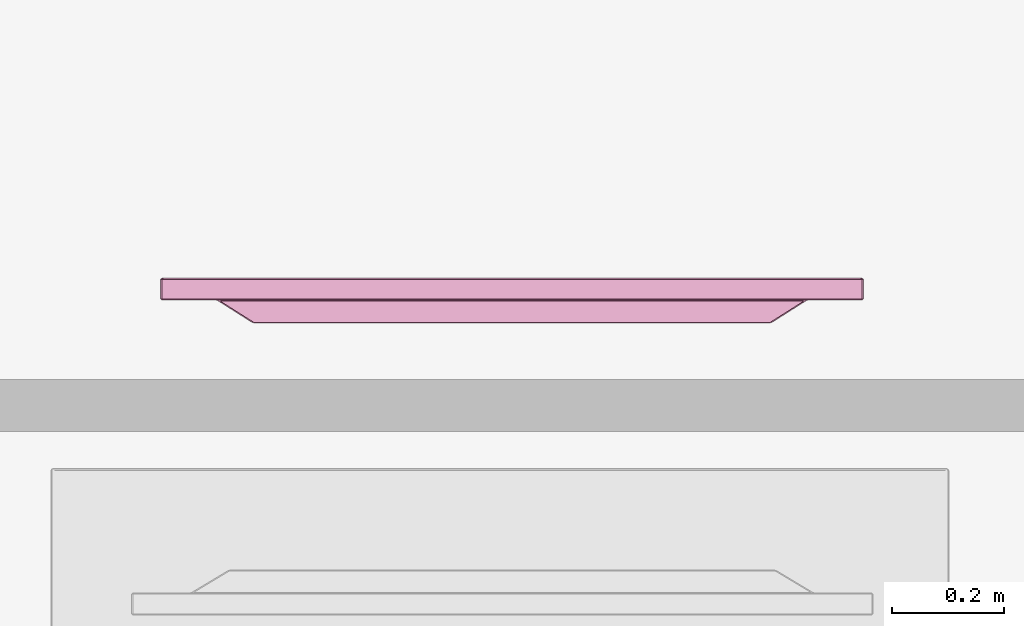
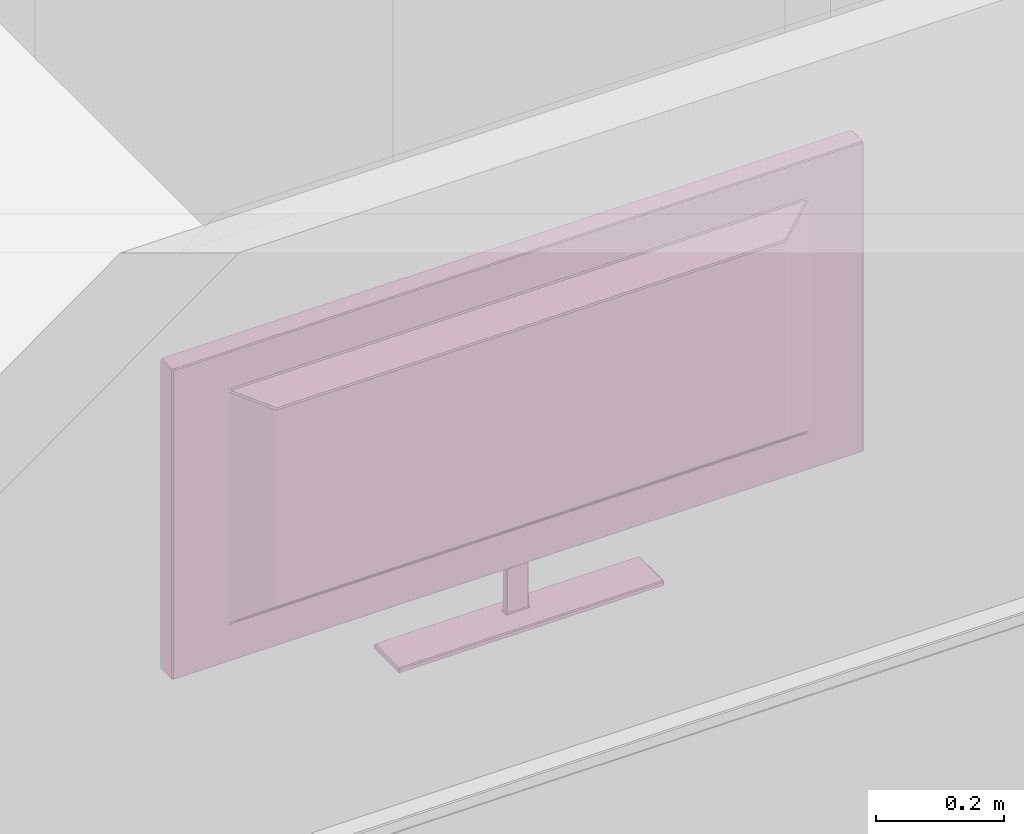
# One storey, part 11 of 26: 1 furnishing.
"""IFC2X3 building model written with IfcOpenShell, lengths in metres."""

import ifcopenshell
import ifcopenshell.guid

model = None  # the IFC model being written
_history = None  # IfcOwnerHistory: only IFC2X3 demands one
_inside = {}  # id of a spatial element -> (the spatial element, [elements in it])
_under = {}  # id of a project, library or spatial element -> (it, [spatial elements below it])
_declared = {}  # id of a project -> (the project, [libraries it declares])
_typed = {}  # id of a type object -> (the type object, [elements of that type])
_made_of = {}  # id of a material, layer set ... -> (it, [elements and type objects made of it])


def new_model(schema):
    """Start an empty IFC model of exactly this schema.

    Asked for "IFC4X3", IfcOpenShell would pick the latest addendum, in which some entities
    have other attributes; the version numbers below select the first issue.
    IFC2X3 requires an IfcOwnerHistory on every rooted entity: one is made here for all.
    """
    global model, _history
    if schema == "IFC4X3":
        model = ifcopenshell.file(schema_version=(4, 3, 0, 0))
    else:
        model = ifcopenshell.file(schema=schema)
    _inside.clear()
    _under.clear()
    _declared.clear()
    _typed.clear()
    _made_of.clear()
    _history = None
    if model.schema == "IFC2X3":
        org = make("IfcOrganization", Name="unknown")
        user = make(
            "IfcPersonAndOrganization",
            ThePerson=make("IfcPerson", FamilyName="unknown"),
            TheOrganization=org,
        )
        app = make(
            "IfcApplication",
            ApplicationDeveloper=org,
            Version="unknown",
            ApplicationFullName="unknown",
            ApplicationIdentifier="unknown",
        )
        _history = make(
            "IfcOwnerHistory",
            OwningUser=user,
            OwningApplication=app,
            ChangeAction="ADDED",
            CreationDate=0,
        )
    return model


def make(cls, **values):
    """One entity of the class cls with the attributes given. An attribute that is None is left unset."""
    return model.create_entity(
        cls, **{name: value for name, value in values.items() if value is not None}
    )


def rooted(cls, **values):
    """An entity with a GlobalId (a new one), such as an element, a storey or a relation."""
    return make(cls, GlobalId=ifcopenshell.guid.new(), OwnerHistory=_history, **values)


def si_unit(unit_type, name, prefix=None):
    """IfcSIUnit, for example si_unit("LENGTHUNIT", "METRE", prefix="MILLI")."""
    return make("IfcSIUnit", UnitType=unit_type, Prefix=prefix, Name=name)


def assignment(units):
    """IfcUnitAssignment: the units of a project."""
    return None if units is None else make("IfcUnitAssignment", Units=units)


def point(xyz):
    """IfcCartesianPoint."""
    return None if xyz is None else make("IfcCartesianPoint", Coordinates=xyz)


def direction(xyz):
    """IfcDirection."""
    return None if xyz is None else make("IfcDirection", DirectionRatios=xyz)


def frame(location, z_axis=None, x_axis=None):
    """IfcAxis2Placement3D, a coordinate frame: its origin and axes. An axis left out is left unset."""
    return make(
        "IfcAxis2Placement3D",
        Location=point(location),
        Axis=direction(z_axis),
        RefDirection=direction(x_axis),
    )


def origin_with_axes():
    """The frame at (0, 0, 0) with the z axis (0, 0, 1) and the x axis (1, 0, 0) written out."""
    return frame((0.0, 0.0, 0.0), z_axis=(0.0, 0.0, 1.0), x_axis=(1.0, 0.0, 0.0))


def place(relative_to, where):
    """IfcLocalPlacement: puts the frame where relative to a parent placement (None: the world)."""
    return make(
        "IfcLocalPlacement", PlacementRelTo=relative_to, RelativePlacement=where
    )


def context(
    kind, dimensions, precision=None, world=None, true_north=None, identifier=None
):
    """IfcGeometricRepresentationContext, for example the 3D "Model" context."""
    return make(
        "IfcGeometricRepresentationContext",
        ContextIdentifier=identifier,
        ContextType=kind,
        CoordinateSpaceDimension=dimensions,
        Precision=precision,
        WorldCoordinateSystem=world,
        TrueNorth=true_north,
    )


def project(units=None, contexts=None):
    """IfcProject with its units and contexts."""
    return rooted(
        "IfcProject",
        Name="project",
        RepresentationContexts=contexts,
        UnitsInContext=assignment(units),
    )


def spatial(cls, under=None, at=None, **own):
    """A site, building, storey or space (cls), placed at a placement, below another one or the project."""
    s = rooted(cls, ObjectPlacement=at, **own)
    if under is not None:
        _under.setdefault(under.id(), (under, []))[1].append(s)
    return s


def faces_of(points, faces, orient=None, outer=None):
    """IfcFace entities. A face is a list of loops; a loop is a list of indices into points, from 0.

    orient and outer hold one flag for each loop. By default every Orientation is true, the
    first loop of a face is its IfcFaceOuterBound and the others are IfcFaceBound.
    """
    made = []
    for i, loops in enumerate(faces):
        bounds = []
        for j, loop in enumerate(loops):
            is_outer = j == 0 if outer is None else outer[i][j]
            bounds.append(
                make(
                    "IfcFaceOuterBound" if is_outer else "IfcFaceBound",
                    Bound=make("IfcPolyLoop", Polygon=[points[k] for k in loop]),
                    Orientation=True if orient is None else orient[i][j],
                )
            )
        made.append(make("IfcFace", Bounds=bounds))
    return made


def faceted_brep(points, faces, orient=None, outer=None, voids=None):
    """IfcFacetedBrep: a solid bounded by flat faces; with voids (closed shells), ...WithVoids."""
    shared = [point(p) for p in points]
    hull = make("IfcClosedShell", CfsFaces=faces_of(shared, faces, orient, outer))
    if voids is None:
        return make("IfcFacetedBrep", Outer=hull)
    return make(
        "IfcFacetedBrepWithVoids",
        Outer=hull,
        Voids=[
            make(cls, CfsFaces=faces_of(shared, fs, o, b)) for cls, fs, o, b in voids
        ],
    )


def shape(context_of_items, identifier, shape_type, items):
    """IfcShapeRepresentation: the items that make up one representation, for example the "Body"."""
    return make(
        "IfcShapeRepresentation",
        ContextOfItems=context_of_items,
        RepresentationIdentifier=identifier,
        RepresentationType=shape_type,
        Items=items,
    )


def made_of(thing, what):
    """Note that an element or type object is made of a material, layer set ...; save() writes the relation."""
    if what is not None:
        _made_of.setdefault(what.id(), (what, []))[1].append(thing)
    return thing


def type_object(cls, material=None, **own):
    """A type object (cls), such as IfcWallType, which elements share."""
    return made_of(rooted(cls, **own), material)


def element(
    cls,
    number,
    at=None,
    inside=None,
    cuts=None,
    type_object=None,
    material=None,
    context=None,
    identifier="Body",
    shape_type=None,
    held_by="IfcProductDefinitionShape",
    body=None,
    shapes=None,
    **own,
):
    """One element of the class cls, such as IfcWall. Its Tag is "e" and its number.

    at: its placement. inside: the storey or other place that contains it. cuts: it is an
    opening in that element (IfcRelVoidsElement). A single representation is given by context,
    identifier, shape_type and body (its items); several are given by shapes. held_by: the class
    of the entity that holds the representations. save() writes the other relations.
    """
    e = rooted(cls, Tag="e%d" % number, ObjectPlacement=at, **own)
    if body is not None:
        shapes = [shape(context, identifier, shape_type, body)]
    if shapes is not None:
        e.Representation = make(held_by, Representations=shapes)
    if inside is not None:
        _inside.setdefault(inside.id(), (inside, []))[1].append(e)
    if cuts is not None:
        rooted(
            "IfcRelVoidsElement", RelatingBuildingElement=cuts, RelatedOpeningElement=e
        )
    if type_object is not None:
        _typed.setdefault(type_object.id(), (type_object, []))[1].append(e)
    return made_of(e, material)


def aggregate(whole, parts):
    """IfcRelAggregates: a whole, such as a stair, and the parts it consists of."""
    return rooted("IfcRelAggregates", RelatingObject=whole, RelatedObjects=parts)


def save(model, path):
    """Write the relations noted so far, then the file.

    IfcRelAggregates (storeys below a building ...), IfcRelContainedInSpatialStructure (elements
    in a storey), IfcRelDefinesByType, IfcRelAssociatesMaterial and IfcRelDeclares: one each for
    every whole, place, type object, material and project.
    """
    for whole, parts in _under.values():
        aggregate(whole, parts)
    for where, things in _inside.values():
        rooted(
            "IfcRelContainedInSpatialStructure",
            RelatedElements=things,
            RelatingStructure=where,
        )
    for kind, things in _typed.values():
        rooted("IfcRelDefinesByType", RelatedObjects=things, RelatingType=kind)
    for what, things in _made_of.values():
        rooted("IfcRelAssociatesMaterial", RelatedObjects=things, RelatingMaterial=what)
    for by, libraries in _declared.values():
        rooted("IfcRelDeclares", RelatingContext=by, RelatedDefinitions=libraries)
    model.write(path)


model = new_model("IFC2X3")

# Units and contexts
model_context = context("Model", 3, precision=1e-05, world=origin_with_axes(), true_north=direction((0.996, -0.093, 0.0)))
ifc_project = project(units=[si_unit("AREAUNIT", "SQUARE_METRE"), si_unit("LENGTHUNIT", "METRE")], contexts=[model_context])

# Site, building, storey, space
site_placement = place(None, origin_with_axes())
site = spatial("IfcSite", under=ifc_project, at=site_placement, Name="Site", CompositionType="ELEMENT")
building_placement = place(site_placement, origin_with_axes())
building = spatial("IfcBuilding", under=site, at=building_placement, Name="Building", CompositionType="ELEMENT")
storey_placement = place(building_placement, frame((0.0, 0.0, 0.0500001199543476), z_axis=(0.0, 0.0, 1.0), x_axis=(1.0, 0.0, 0.0)))
storey = spatial("IfcBuildingStorey", under=building, at=storey_placement, Name="Story 0", CompositionType="ELEMENT", Elevation=0.0500000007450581)
space_placement = place(storey_placement, frame((9.93548383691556, 0.861985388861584, 0.0), z_axis=(0.0, 0.0, 1.0), x_axis=(1.0, 0.0, 0.0)))
space = spatial("IfcSpace", under=storey, at=space_placement, Name="004", CompositionType="ELEMENT", InteriorOrExteriorSpace="INTERNAL")

# Furnishing
furniture_type = type_object("IfcFurnitureType", Name="e34bf913-bba4-465f-8bc2-ae57b32af9ed")
furnishing_placement = place(space_placement, frame((-1.18565740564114, 0.140154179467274, 1.85515792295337), z_axis=(0.0, 0.0, 0.999999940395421), x_axis=(0.0, 0.999999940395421, 0.0)))
element("IfcFurnishingElement", 1, at=furnishing_placement, inside=space, type_object=furniture_type, Name="Television", ObjectType="Television", context=model_context, shape_type="Brep", body=[
    faceted_brep([(0.0288, -0.5938, -0.2046), (0.0288, 0.5938, -0.2046), (0.0288, -0.5962, -0.2027), (0.0288, -0.5962, 0.3207), (0.0288, -0.5962, -0.2027), (0.0288, -0.5938, 0.3226), (0.0288, 0.5938, 0.3226), (0.0288, -0.5938, 0.3226), (0.0288, 0.5962, 0.3207), (0.0288, -0.5938, 0.3226), (0.0288, -0.5962, -0.2027), (0.0288, 0.5962, 0.3207), (0.0288, -0.5962, -0.2027), (0.0288, 0.5938, -0.2046), (0.0288, 0.5962, 0.3207), (0.0288, 0.5938, -0.2046), (0.0288, 0.5962, -0.2027), (0.0288, 0.5962, 0.3207), (0.003, -0.6262, 0.3441), (0.003, -0.6262, -0.2467), (0.038, -0.6262, 0.3441), (0.038, -0.6262, -0.2467), (0.038, -0.6262, 0.3441), (0.003, -0.6262, -0.2467), (0.003, 0.6262, -0.2467), (0.003, 0.6262, 0.3441), (0.038, 0.6262, -0.2467), (0.038, 0.6262, 0.3441), (0.038, 0.6262, -0.2467), (0.003, 0.6262, 0.3441), (0.003, 0.6239, 0.3459), (0.003, -0.6239, 0.3459), (0.038, 0.6239, 0.3459), (0.038, -0.6239, 0.3459), (0.038, 0.6239, 0.3459), (0.003, -0.6239, 0.3459), (0.0143, -0.0216, -0.2272), (0.0062, -0.0216, -0.2272), (0.0143, -0.0216, -0.3341), (0.0062, -0.0216, -0.3341), (0.0143, -0.0216, -0.3341), (0.0062, -0.0216, -0.2272), (0.0162, 0.0171, -0.2272), (0.0162, -0.0193, -0.2272), (0.0162, 0.0171, -0.3341), (0.0162, -0.0193, -0.3341), (0.0162, 0.0171, -0.3341), (0.0162, -0.0193, -0.2272), (0.0062, 0.0195, -0.2272), (0.0143, 0.0195, -0.2272), (0.0062, 0.0195, -0.3341), (0.0143, 0.0195, -0.3341), (0.0062, 0.0195, -0.3341), (0.0143, 0.0195, -0.2272), (-0.04, 0.459, -0.1392), (-0.04, -0.459, -0.1392), (-0.04, 0.459, 0.2367), (-0.04, -0.459, 0.2367), (-0.04, 0.459, 0.2367), (-0.04, -0.459, -0.1392), (0.0043, 0.0171, -0.3341), (0.0043, -0.0193, -0.3341), (0.0043, 0.0171, -0.2272), (0.0043, -0.0193, -0.2272), (0.0043, 0.0171, -0.2272), (0.0043, -0.0193, -0.3341), (0.038, -0.6239, -0.2485), (0.003, -0.6239, -0.2485), (0.038, 0.6239, -0.2485), (0.003, 0.6239, -0.2485), (0.038, 0.6239, -0.2485), (0.003, -0.6239, -0.2485), (-0.0379, -0.2395, -0.3459), (-0.0379, 0.2374, -0.3459), (0.0382, -0.2395, -0.3459), (0.0382, 0.2374, -0.3459), (0.0382, -0.2395, -0.3459), (-0.0379, 0.2374, -0.3459), (0.0399, -0.5994, -0.21), (0.0399, -0.6225, -0.2467), (0.0399, 0.5994, -0.21), (0.0399, 0.6225, -0.2467), (0.0399, 0.5994, -0.21), (0.0399, -0.6225, -0.2467), (0.0399, -0.6032, 0.3255), (0.0399, -0.6239, 0.3416), (0.0399, -0.6032, -0.2078), (0.0399, -0.6239, -0.2407), (0.0399, -0.6032, -0.2078), (0.0399, -0.6239, 0.3416), (0.0399, 0.5999, 0.328), (0.0399, 0.6206, 0.3441), (0.0399, -0.5999, 0.328), (0.0399, -0.6206, 0.3441), (0.0399, -0.5999, 0.328), (0.0399, 0.6206, 0.3441), (0.0399, 0.6239, -0.2407), (0.0399, 0.6239, 0.3416), (0.0399, 0.6032, -0.2078), (0.0399, 0.6032, 0.3255), (0.0399, 0.6032, -0.2078), (0.0399, 0.6239, 0.3416), (0.0288, -0.5938, -0.2046), (0.0381, -0.5977, -0.2076), (0.0288, 0.5938, -0.2046), (0.0381, 0.5977, -0.2076), (0.0288, 0.5938, -0.2046), (0.0381, -0.5977, -0.2076), (0.0288, -0.5962, 0.3207), (0.0381, -0.6001, 0.3238), (0.0288, -0.5962, -0.2027), (0.0381, -0.6001, -0.2057), (0.0288, -0.5962, -0.2027), (0.0381, -0.6001, 0.3238), (0.0288, 0.5938, 0.3226), (0.0381, 0.5977, 0.3256), (0.0288, -0.5938, 0.3226), (0.0381, -0.5977, 0.3256), (0.0288, -0.5938, 0.3226), (0.0381, 0.5977, 0.3256), (0.0288, 0.5962, -0.2027), (0.0381, 0.6001, -0.2057), (0.0288, 0.5962, 0.3207), (0.0381, 0.6001, 0.3238), (0.0288, 0.5962, 0.3207), (0.0381, 0.6001, -0.2057), (0.0011, -0.5286, -0.1742), (0.0011, -0.6239, -0.2443), (0.0011, -0.5286, 0.2717), (0.0011, -0.6239, 0.3418), (0.0011, -0.5286, 0.2717), (0.0011, -0.6239, -0.2443), (0.0011, 0.5254, -0.1768), (0.0011, 0.6204, -0.2467), (0.0011, -0.5254, -0.1768), (0.0011, -0.6204, -0.2467), (0.0011, -0.5254, -0.1768), (0.0011, 0.6204, -0.2467), (0.0011, 0.5286, 0.2717), (0.0011, 0.6239, 0.3418), (0.0011, 0.5286, -0.1742), (0.0011, 0.6239, -0.2443), (0.0011, 0.5286, -0.1742), (0.0011, 0.6239, 0.3418), (0.0011, -0.5254, 0.2743), (0.0011, -0.6204, 0.3441), (0.0011, 0.5254, 0.2743), (0.0011, 0.6204, 0.3441), (0.0011, 0.5254, 0.2743), (0.0011, -0.6204, 0.3441), (-0.0389, -0.4632, 0.2374), (-0.0389, -0.4632, -0.14), (0.0, -0.5245, 0.2695), (0.0, -0.5245, -0.172), (0.0, -0.5245, 0.2695), (-0.0389, -0.4632, -0.14), (-0.0386, -0.4603, -0.1422), (-0.0386, 0.4603, -0.1422), (-0.0003, -0.5209, -0.1738), (-0.0003, 0.5209, -0.1738), (-0.0003, -0.5209, -0.1738), (-0.0386, 0.4603, -0.1422), (-0.0389, 0.4632, -0.14), (-0.0389, 0.4632, 0.2374), (0.0, 0.5245, -0.172), (0.0, 0.5245, 0.2695), (0.0, 0.5245, -0.172), (-0.0389, 0.4632, 0.2374), (-0.0386, 0.4603, 0.2397), (-0.0386, -0.4603, 0.2397), (-0.0003, 0.5209, 0.2713), (-0.0003, -0.5209, 0.2713), (-0.0003, 0.5209, 0.2713), (-0.0386, -0.4603, 0.2397), (0.04, 0.2374, -0.3441), (0.04, 0.2374, -0.3378), (0.04, -0.2395, -0.3441), (0.04, -0.2395, -0.3378), (0.04, -0.2395, -0.3441), (0.04, 0.2374, -0.3378), (-0.0379, 0.2397, -0.3441), (-0.0379, 0.2397, -0.3378), (0.0382, 0.2397, -0.3441), (0.0382, 0.2397, -0.3378), (0.0382, 0.2397, -0.3441), (-0.0379, 0.2397, -0.3378), (-0.0397, -0.2395, -0.3441), (-0.0397, -0.2395, -0.3378), (-0.0397, 0.2374, -0.3441), (-0.0397, 0.2374, -0.3378), (-0.0397, 0.2374, -0.3441), (-0.0397, -0.2395, -0.3378), (0.0382, -0.2418, -0.3441), (0.0382, -0.2418, -0.3378), (-0.0379, -0.2418, -0.3441), (-0.0379, -0.2418, -0.3378), (-0.0379, -0.2418, -0.3441), (0.0382, -0.2418, -0.3378), (-0.0374, -0.2395, -0.336), (0.0379, -0.2395, -0.336), (0.0058, -0.0239, -0.336), (0.0146, -0.0239, -0.336), (0.0058, -0.0239, -0.336), (0.0379, -0.2395, -0.336), (0.0025, 0.0192, -0.336), (-0.0379, 0.221, -0.336), (0.0025, -0.0213, -0.336), (-0.0379, -0.2231, -0.336), (0.0025, -0.0213, -0.336), (-0.0379, 0.221, -0.336), (0.0146, 0.0218, -0.336), (0.0379, 0.2374, -0.336), (0.0058, 0.0218, -0.336), (-0.0374, 0.2374, -0.336), (0.0058, 0.0218, -0.336), (0.0379, 0.2374, -0.336), (0.018, -0.0214, -0.336), (0.0382, -0.2076, -0.336), (0.018, 0.0193, -0.336), (0.0382, 0.2055, -0.336), (0.018, 0.0193, -0.336), (0.0382, -0.2076, -0.336), (0.0346, -0.6125, -0.2149), (0.0346, 0.6125, -0.2149), (0.0346, -0.6125, 0.333), (0.0346, 0.6125, 0.333), (0.0346, -0.6125, 0.333), (0.0346, 0.6125, -0.2149), (0.0399, -0.6206, 0.3441), (0.038, -0.6239, 0.3459), (0.0399, -0.6239, 0.3416), (0.038, -0.6262, 0.3441), (0.0399, -0.6239, 0.3416), (0.038, -0.6239, 0.3459), (0.0011, 0.6204, 0.3441), (0.003, 0.6239, 0.3459), (0.0011, 0.6239, 0.3418), (0.003, 0.6262, 0.3441), (0.0011, 0.6239, 0.3418), (0.003, 0.6239, 0.3459), (0.0399, 0.6239, 0.3416), (0.038, 0.6262, 0.3441), (0.0399, 0.6206, 0.3441), (0.038, 0.6239, 0.3459), (0.0399, 0.6206, 0.3441), (0.038, 0.6262, 0.3441), (0.0058, -0.0239, -0.336), (0.0062, -0.0216, -0.3341), (0.0025, -0.0213, -0.336), (0.0043, -0.0193, -0.3341), (0.0025, -0.0213, -0.336), (0.0062, -0.0216, -0.3341), (0.0146, -0.0239, -0.336), (0.018, -0.0214, -0.336), (0.0143, -0.0216, -0.3341), (0.0162, -0.0193, -0.3341), (0.0143, -0.0216, -0.3341), (0.018, -0.0214, -0.336), (0.0146, 0.0218, -0.336), (0.0143, 0.0195, -0.3341), (0.018, 0.0193, -0.336), (0.0162, 0.0171, -0.3341), (0.018, 0.0193, -0.336), (0.0143, 0.0195, -0.3341), (-0.0386, -0.4603, 0.2397), (-0.04, -0.459, 0.2367), (-0.0389, -0.4632, 0.2374), (0.0058, 0.0218, -0.336), (0.0025, 0.0192, -0.336), (0.0062, 0.0195, -0.3341), (0.0043, 0.0171, -0.3341), (0.0062, 0.0195, -0.3341), (0.0025, 0.0192, -0.336), (0.0011, -0.6204, -0.2467), (0.003, -0.6239, -0.2485), (0.0011, -0.6239, -0.2443), (0.003, -0.6262, -0.2467), (0.0011, -0.6239, -0.2443), (0.003, -0.6239, -0.2485), (0.0399, -0.6239, -0.2407), (0.038, -0.6262, -0.2467), (0.0399, -0.6225, -0.2467), (0.038, -0.6239, -0.2485), (0.0399, -0.6225, -0.2467), (0.038, -0.6262, -0.2467), (0.0382, -0.2418, -0.3441), (0.0382, -0.2395, -0.3459), (0.04, -0.2395, -0.3441), (0.0399, 0.6239, -0.2407), (0.0399, 0.6225, -0.2467), (0.038, 0.6262, -0.2467), (0.038, 0.6239, -0.2485), (0.038, 0.6262, -0.2467), (0.0399, 0.6225, -0.2467), (0.0381, -0.6001, -0.2057), (0.0399, -0.6032, -0.2078), (0.0381, -0.5977, -0.2076), (0.0399, -0.5994, -0.21), (0.0381, -0.5977, -0.2076), (0.0399, -0.6032, -0.2078), (0.0381, -0.5977, 0.3256), (0.0399, -0.5999, 0.328), (0.0381, -0.6001, 0.3238), (0.0399, -0.6032, 0.3255), (0.0381, -0.6001, 0.3238), (0.0399, -0.5999, 0.328), (0.0381, 0.6001, 0.3238), (0.0399, 0.6032, 0.3255), (0.0381, 0.5977, 0.3256), (0.0399, 0.5999, 0.328), (0.0381, 0.5977, 0.3256), (0.0399, 0.6032, 0.3255), (0.0381, 0.6001, -0.2057), (0.0381, 0.5977, -0.2076), (0.0399, 0.6032, -0.2078), (0.0399, 0.5994, -0.21), (0.0399, 0.6032, -0.2078), (0.0381, 0.5977, -0.2076), (0.0011, -0.6204, 0.3441), (0.0011, -0.6239, 0.3418), (0.003, -0.6239, 0.3459), (0.003, -0.6262, 0.3441), (0.003, -0.6239, 0.3459), (0.0011, -0.6239, 0.3418), (-0.0003, -0.5209, 0.2713), (0.0, -0.5245, 0.2695), (0.0011, -0.5254, 0.2743), (0.0011, -0.5286, 0.2717), (0.0011, -0.5254, 0.2743), (0.0, -0.5245, 0.2695), (-0.0003, -0.5209, -0.1738), (0.0011, -0.5254, -0.1768), (0.0, -0.5245, -0.172), (0.0011, -0.5286, -0.1742), (0.0, -0.5245, -0.172), (0.0011, -0.5254, -0.1768), (0.0011, 0.6204, -0.2467), (0.0011, 0.6239, -0.2443), (0.003, 0.6239, -0.2485), (0.003, 0.6262, -0.2467), (0.003, 0.6239, -0.2485), (0.0011, 0.6239, -0.2443), (-0.0003, 0.5209, -0.1738), (0.0, 0.5245, -0.172), (0.0011, 0.5254, -0.1768), (0.0011, 0.5286, -0.1742), (0.0011, 0.5254, -0.1768), (0.0, 0.5245, -0.172), (-0.0003, 0.5209, 0.2713), (0.0011, 0.5254, 0.2743), (0.0, 0.5245, 0.2695), (0.0011, 0.5286, 0.2717), (0.0, 0.5245, 0.2695), (0.0011, 0.5254, 0.2743), (-0.0386, -0.4603, -0.1422), (-0.0389, -0.4632, -0.14), (-0.04, -0.459, -0.1392), (-0.0389, 0.4632, -0.14), (-0.0386, 0.4603, -0.1422), (-0.04, 0.459, -0.1392), (-0.0386, 0.4603, 0.2397), (-0.0389, 0.4632, 0.2374), (-0.04, 0.459, 0.2367), (0.0382, 0.2397, -0.3441), (0.04, 0.2374, -0.3441), (0.0382, 0.2374, -0.3459), (-0.0397, 0.2374, -0.3441), (-0.0379, 0.2397, -0.3441), (-0.0379, 0.2374, -0.3459), (-0.0379, -0.2418, -0.3441), (-0.0397, -0.2395, -0.3441), (-0.0379, -0.2395, -0.3459), (-0.0379, -0.2231, -0.336), (-0.0397, -0.2395, -0.3378), (-0.0374, -0.2395, -0.336), (-0.0379, -0.2418, -0.3378), (-0.0374, -0.2395, -0.336), (-0.0397, -0.2395, -0.3378), (0.0382, -0.2076, -0.336), (0.0379, -0.2395, -0.336), (0.04, -0.2395, -0.3378), (0.0382, -0.2418, -0.3378), (0.04, -0.2395, -0.3378), (0.0379, -0.2395, -0.336), (-0.0379, 0.221, -0.336), (-0.0374, 0.2374, -0.336), (-0.0397, 0.2374, -0.3378), (-0.0379, 0.2397, -0.3378), (-0.0397, 0.2374, -0.3378), (-0.0374, 0.2374, -0.336), (0.0382, 0.2397, -0.3378), (0.0379, 0.2374, -0.336), (0.04, 0.2374, -0.3378), (0.0382, 0.2055, -0.336), (0.04, 0.2374, -0.3378), (0.0379, 0.2374, -0.336), (0.038, -0.6262, -0.2467), (0.003, -0.6262, -0.2467), (0.038, -0.6239, -0.2485), (0.003, -0.6239, -0.2485), (0.038, -0.6239, -0.2485), (0.003, -0.6262, -0.2467), (0.003, -0.6262, 0.3441), (0.038, -0.6262, 0.3441), (0.003, -0.6239, 0.3459), (0.038, -0.6239, 0.3459), (0.003, -0.6239, 0.3459), (0.038, -0.6262, 0.3441), (0.038, 0.6262, 0.3441), (0.003, 0.6262, 0.3441), (0.038, 0.6239, 0.3459), (0.003, 0.6239, 0.3459), (0.038, 0.6239, 0.3459), (0.003, 0.6262, 0.3441), (0.003, 0.6262, -0.2467), (0.038, 0.6262, -0.2467), (0.003, 0.6239, -0.2485), (0.038, 0.6239, -0.2485), (0.003, 0.6239, -0.2485), (0.038, 0.6262, -0.2467), (0.0062, -0.0216, -0.3341), (0.0062, -0.0216, -0.2272), (0.0043, -0.0193, -0.3341), (0.0043, -0.0193, -0.2272), (0.0043, -0.0193, -0.3341), (0.0062, -0.0216, -0.2272), (0.0143, -0.0216, -0.2272), (0.0143, -0.0216, -0.3341), (0.0162, -0.0193, -0.2272), (0.0162, -0.0193, -0.3341), (0.0162, -0.0193, -0.2272), (0.0143, -0.0216, -0.3341), (0.0162, 0.0171, -0.2272), (0.0162, 0.0171, -0.3341), (0.0143, 0.0195, -0.2272), (0.0143, 0.0195, -0.3341), (0.0143, 0.0195, -0.2272), (0.0162, 0.0171, -0.3341), (0.0062, 0.0195, -0.2272), (0.0062, 0.0195, -0.3341), (0.0043, 0.0171, -0.2272), (0.0043, 0.0171, -0.3341), (0.0043, 0.0171, -0.2272), (0.0062, 0.0195, -0.3341), (-0.04, -0.459, 0.2367), (-0.04, -0.459, -0.1392), (-0.0389, -0.4632, 0.2374), (-0.0389, -0.4632, -0.14), (-0.0389, -0.4632, 0.2374), (-0.04, -0.459, -0.1392), (-0.04, -0.459, -0.1392), (-0.04, 0.459, -0.1392), (-0.0386, -0.4603, -0.1422), (-0.0386, 0.4603, -0.1422), (-0.0386, -0.4603, -0.1422), (-0.04, 0.459, -0.1392), (-0.04, 0.459, -0.1392), (-0.04, 0.459, 0.2367), (-0.0389, 0.4632, -0.14), (-0.0389, 0.4632, 0.2374), (-0.0389, 0.4632, -0.14), (-0.04, 0.459, 0.2367), (-0.04, 0.459, 0.2367), (-0.04, -0.459, 0.2367), (-0.0386, 0.4603, 0.2397), (-0.0386, -0.4603, 0.2397), (-0.0386, 0.4603, 0.2397), (-0.04, -0.459, 0.2367), (0.0382, 0.2374, -0.3459), (-0.0379, 0.2374, -0.3459), (0.0382, 0.2397, -0.3441), (-0.0379, 0.2397, -0.3441), (0.0382, 0.2397, -0.3441), (-0.0379, 0.2374, -0.3459), (-0.0379, 0.2374, -0.3459), (-0.0379, -0.2395, -0.3459), (-0.0397, 0.2374, -0.3441), (-0.0397, -0.2395, -0.3441), (-0.0397, 0.2374, -0.3441), (-0.0379, -0.2395, -0.3459), (-0.0379, -0.2395, -0.3459), (0.0382, -0.2395, -0.3459), (-0.0379, -0.2418, -0.3441), (0.0382, -0.2418, -0.3441), (-0.0379, -0.2418, -0.3441), (0.0382, -0.2395, -0.3459), (0.0382, -0.2395, -0.3459), (0.0382, 0.2374, -0.3459), (0.04, -0.2395, -0.3441), (0.04, 0.2374, -0.3441), (0.04, -0.2395, -0.3441), (0.0382, 0.2374, -0.3459), (0.0399, 0.6225, -0.2467), (0.0399, -0.6225, -0.2467), (0.038, 0.6239, -0.2485), (0.038, -0.6239, -0.2485), (0.038, 0.6239, -0.2485), (0.0399, -0.6225, -0.2467), (0.0399, -0.6225, -0.2467), (0.0399, -0.5994, -0.21), (0.0399, -0.6239, -0.2407), (0.0399, -0.6032, -0.2078), (0.0399, -0.6239, -0.2407), (0.0399, -0.5994, -0.21), (0.0399, -0.6239, -0.2407), (0.0399, -0.6239, 0.3416), (0.038, -0.6262, -0.2467), (0.038, -0.6262, 0.3441), (0.038, -0.6262, -0.2467), (0.0399, -0.6239, 0.3416), (0.0399, -0.6239, 0.3416), (0.0399, -0.6032, 0.3255), (0.0399, -0.6206, 0.3441), (0.0399, -0.5999, 0.328), (0.0399, -0.6206, 0.3441), (0.0399, -0.6032, 0.3255), (0.0399, -0.6206, 0.3441), (0.0399, 0.6206, 0.3441), (0.038, -0.6239, 0.3459), (0.038, 0.6239, 0.3459), (0.038, -0.6239, 0.3459), (0.0399, 0.6206, 0.3441), (0.0399, 0.6206, 0.3441), (0.0399, 0.5999, 0.328), (0.0399, 0.6239, 0.3416), (0.0399, 0.6032, 0.3255), (0.0399, 0.6239, 0.3416), (0.0399, 0.5999, 0.328), (0.0399, 0.6239, 0.3416), (0.0399, 0.6239, -0.2407), (0.038, 0.6262, 0.3441), (0.038, 0.6262, -0.2467), (0.038, 0.6262, 0.3441), (0.0399, 0.6239, -0.2407), (0.0399, 0.6239, -0.2407), (0.0399, 0.6032, -0.2078), (0.0399, 0.6225, -0.2467), (0.0399, 0.5994, -0.21), (0.0399, 0.6225, -0.2467), (0.0399, 0.6032, -0.2078), (0.0381, 0.5977, -0.2076), (0.0381, -0.5977, -0.2076), (0.0399, 0.5994, -0.21), (0.0399, -0.5994, -0.21), (0.0399, 0.5994, -0.21), (0.0381, -0.5977, -0.2076), (0.0381, -0.5977, -0.2076), (0.0288, -0.5938, -0.2046), (0.0381, -0.6001, -0.2057), (0.0288, -0.5962, -0.2027), (0.0381, -0.6001, -0.2057), (0.0288, -0.5938, -0.2046), (0.0381, -0.6001, -0.2057), (0.0381, -0.6001, 0.3238), (0.0399, -0.6032, -0.2078), (0.0399, -0.6032, 0.3255), (0.0399, -0.6032, -0.2078), (0.0381, -0.6001, 0.3238), (0.0381, -0.6001, 0.3238), (0.0288, -0.5962, 0.3207), (0.0381, -0.5977, 0.3256), (0.0288, -0.5938, 0.3226), (0.0381, -0.5977, 0.3256), (0.0288, -0.5962, 0.3207), (0.0381, -0.5977, 0.3256), (0.0381, 0.5977, 0.3256), (0.0399, -0.5999, 0.328), (0.0399, 0.5999, 0.328), (0.0399, -0.5999, 0.328), (0.0381, 0.5977, 0.3256), (0.0381, 0.5977, 0.3256), (0.0288, 0.5938, 0.3226), (0.0381, 0.6001, 0.3238), (0.0288, 0.5962, 0.3207), (0.0381, 0.6001, 0.3238), (0.0288, 0.5938, 0.3226), (0.0381, 0.6001, 0.3238), (0.0381, 0.6001, -0.2057), (0.0399, 0.6032, 0.3255), (0.0399, 0.6032, -0.2078), (0.0399, 0.6032, 0.3255), (0.0381, 0.6001, -0.2057), (0.0381, 0.6001, -0.2057), (0.0288, 0.5962, -0.2027), (0.0381, 0.5977, -0.2076), (0.0288, 0.5938, -0.2046), (0.0381, 0.5977, -0.2076), (0.0288, 0.5962, -0.2027), (0.0011, -0.6239, 0.3418), (0.0011, -0.6239, -0.2443), (0.003, -0.6262, 0.3441), (0.003, -0.6262, -0.2467), (0.003, -0.6262, 0.3441), (0.0011, -0.6239, -0.2443), (0.0011, -0.6239, -0.2443), (0.0011, -0.5286, -0.1742), (0.0011, -0.6204, -0.2467), (0.0011, -0.5254, -0.1768), (0.0011, -0.6204, -0.2467), (0.0011, -0.5286, -0.1742), (0.0011, -0.5286, -0.1742), (0.0011, -0.5286, 0.2717), (0.0, -0.5245, -0.172), (0.0, -0.5245, 0.2695), (0.0, -0.5245, -0.172), (0.0011, -0.5286, 0.2717), (0.0011, -0.6204, -0.2467), (0.0011, 0.6204, -0.2467), (0.003, -0.6239, -0.2485), (0.003, 0.6239, -0.2485), (0.003, -0.6239, -0.2485), (0.0011, 0.6204, -0.2467), (0.0011, 0.6204, -0.2467), (0.0011, 0.5254, -0.1768), (0.0011, 0.6239, -0.2443), (0.0011, 0.5286, -0.1742), (0.0011, 0.6239, -0.2443), (0.0011, 0.5254, -0.1768), (0.0011, 0.5254, -0.1768), (0.0011, -0.5254, -0.1768), (-0.0003, 0.5209, -0.1738), (-0.0003, -0.5209, -0.1738), (-0.0003, 0.5209, -0.1738), (0.0011, -0.5254, -0.1768), (0.0011, 0.6239, -0.2443), (0.0011, 0.6239, 0.3418), (0.003, 0.6262, -0.2467), (0.003, 0.6262, 0.3441), (0.003, 0.6262, -0.2467), (0.0011, 0.6239, 0.3418), (0.0011, 0.6239, 0.3418), (0.0011, 0.5286, 0.2717), (0.0011, 0.6204, 0.3441), (0.0011, 0.5254, 0.2743), (0.0011, 0.6204, 0.3441), (0.0011, 0.5286, 0.2717), (0.0011, 0.5286, 0.2717), (0.0011, 0.5286, -0.1742), (0.0, 0.5245, 0.2695), (0.0, 0.5245, -0.172), (0.0, 0.5245, 0.2695), (0.0011, 0.5286, -0.1742), (0.0011, 0.6204, 0.3441), (0.0011, -0.6204, 0.3441), (0.003, 0.6239, 0.3459), (0.003, -0.6239, 0.3459), (0.003, 0.6239, 0.3459), (0.0011, -0.6204, 0.3441), (0.0011, -0.6204, 0.3441), (0.0011, -0.5254, 0.2743), (0.0011, -0.6239, 0.3418), (0.0011, -0.5286, 0.2717), (0.0011, -0.6239, 0.3418), (0.0011, -0.5254, 0.2743), (0.0011, -0.5254, 0.2743), (0.0011, 0.5254, 0.2743), (-0.0003, -0.5209, 0.2713), (-0.0003, 0.5209, 0.2713), (-0.0003, -0.5209, 0.2713), (0.0011, 0.5254, 0.2743), (0.0, -0.5245, -0.172), (-0.0389, -0.4632, -0.14), (-0.0003, -0.5209, -0.1738), (-0.0386, -0.4603, -0.1422), (-0.0003, -0.5209, -0.1738), (-0.0389, -0.4632, -0.14), (-0.0003, 0.5209, -0.1738), (-0.0386, 0.4603, -0.1422), (0.0, 0.5245, -0.172), (-0.0389, 0.4632, -0.14), (0.0, 0.5245, -0.172), (-0.0386, 0.4603, -0.1422), (0.0, 0.5245, 0.2695), (-0.0389, 0.4632, 0.2374), (-0.0003, 0.5209, 0.2713), (-0.0386, 0.4603, 0.2397), (-0.0003, 0.5209, 0.2713), (-0.0389, 0.4632, 0.2374), (-0.0003, -0.5209, 0.2713), (-0.0386, -0.4603, 0.2397), (0.0, -0.5245, 0.2695), (-0.0389, -0.4632, 0.2374), (0.0, -0.5245, 0.2695), (-0.0386, -0.4603, 0.2397), (0.04, 0.2374, -0.3378), (0.04, 0.2374, -0.3441), (0.0382, 0.2397, -0.3378), (0.0382, 0.2397, -0.3441), (0.0382, 0.2397, -0.3378), (0.04, 0.2374, -0.3441), (-0.0379, 0.2397, -0.3378), (-0.0379, 0.2397, -0.3441), (-0.0397, 0.2374, -0.3378), (-0.0397, 0.2374, -0.3441), (-0.0397, 0.2374, -0.3378), (-0.0379, 0.2397, -0.3441), (-0.0397, -0.2395, -0.3378), (-0.0397, -0.2395, -0.3441), (-0.0379, -0.2418, -0.3378), (-0.0379, -0.2418, -0.3441), (-0.0379, -0.2418, -0.3378), (-0.0397, -0.2395, -0.3441), (0.0382, -0.2418, -0.3378), (0.0382, -0.2418, -0.3441), (0.04, -0.2395, -0.3378), (0.04, -0.2395, -0.3441), (0.04, -0.2395, -0.3378), (0.0382, -0.2418, -0.3441), (0.0379, -0.2395, -0.336), (-0.0374, -0.2395, -0.336), (0.0382, -0.2418, -0.3378), (-0.0379, -0.2418, -0.3378), (0.0382, -0.2418, -0.3378), (-0.0374, -0.2395, -0.336), (-0.0374, -0.2395, -0.336), (0.0058, -0.0239, -0.336), (-0.0379, -0.2231, -0.336), (0.0025, -0.0213, -0.336), (-0.0379, -0.2231, -0.336), (0.0058, -0.0239, -0.336), (0.0058, -0.0239, -0.336), (0.0146, -0.0239, -0.336), (0.0062, -0.0216, -0.3341), (0.0143, -0.0216, -0.3341), (0.0062, -0.0216, -0.3341), (0.0146, -0.0239, -0.336), (-0.0379, -0.2231, -0.336), (-0.0379, 0.221, -0.336), (-0.0397, -0.2395, -0.3378), (-0.0397, 0.2374, -0.3378), (-0.0397, -0.2395, -0.3378), (-0.0379, 0.221, -0.336), (-0.0379, 0.221, -0.336), (0.0025, 0.0192, -0.336), (-0.0374, 0.2374, -0.336), (0.0058, 0.0218, -0.336), (-0.0374, 0.2374, -0.336), (0.0025, 0.0192, -0.336), (0.0025, 0.0192, -0.336), (0.0025, -0.0213, -0.336), (0.0043, 0.0171, -0.3341), (0.0043, -0.0193, -0.3341), (0.0043, 0.0171, -0.3341), (0.0025, -0.0213, -0.336), (-0.0374, 0.2374, -0.336), (0.0379, 0.2374, -0.336), (-0.0379, 0.2397, -0.3378), (0.0382, 0.2397, -0.3378), (-0.0379, 0.2397, -0.3378), (0.0379, 0.2374, -0.336), (0.0379, 0.2374, -0.336), (0.0146, 0.0218, -0.336), (0.0382, 0.2055, -0.336), (0.018, 0.0193, -0.336), (0.0382, 0.2055, -0.336), (0.0146, 0.0218, -0.336), (0.0146, 0.0218, -0.336), (0.0058, 0.0218, -0.336), (0.0143, 0.0195, -0.3341), (0.0062, 0.0195, -0.3341), (0.0143, 0.0195, -0.3341), (0.0058, 0.0218, -0.336), (0.0382, 0.2055, -0.336), (0.0382, -0.2076, -0.336), (0.04, 0.2374, -0.3378), (0.04, -0.2395, -0.3378), (0.04, 0.2374, -0.3378), (0.0382, -0.2076, -0.336), (0.0382, -0.2076, -0.336), (0.018, -0.0214, -0.336), (0.0379, -0.2395, -0.336), (0.0146, -0.0239, -0.336), (0.0379, -0.2395, -0.336), (0.018, -0.0214, -0.336), (0.018, -0.0214, -0.336), (0.018, 0.0193, -0.336), (0.0162, -0.0193, -0.3341), (0.0162, 0.0171, -0.3341), (0.0162, -0.0193, -0.3341), (0.018, 0.0193, -0.336)], [[[0, 1, 2]], [[3, 4, 5]], [[6, 7, 8]], [[9, 10, 11]], [[12, 13, 14]], [[15, 16, 17]], [[18, 19, 20]], [[21, 22, 23]], [[24, 25, 26]], [[27, 28, 29]], [[30, 31, 32]], [[33, 34, 35]], [[36, 37, 38]], [[39, 40, 41]], [[42, 43, 44]], [[45, 46, 47]], [[48, 49, 50]], [[51, 52, 53]], [[54, 55, 56]], [[57, 58, 59]], [[60, 61, 62]], [[63, 64, 65]], [[66, 67, 68]], [[69, 70, 71]], [[72, 73, 74]], [[75, 76, 77]], [[78, 79, 80]], [[81, 82, 83]], [[84, 85, 86]], [[87, 88, 89]], [[90, 91, 92]], [[93, 94, 95]], [[96, 97, 98]], [[99, 100, 101]], [[102, 103, 104]], [[105, 106, 107]], [[108, 109, 110]], [[111, 112, 113]], [[114, 115, 116]], [[117, 118, 119]], [[120, 121, 122]], [[123, 124, 125]], [[126, 127, 128]], [[129, 130, 131]], [[132, 133, 134]], [[135, 136, 137]], [[138, 139, 140]], [[141, 142, 143]], [[144, 145, 146]], [[147, 148, 149]], [[150, 151, 152]], [[153, 154, 155]], [[156, 157, 158]], [[159, 160, 161]], [[162, 163, 164]], [[165, 166, 167]], [[168, 169, 170]], [[171, 172, 173]], [[174, 175, 176]], [[177, 178, 179]], [[180, 181, 182]], [[183, 184, 185]], [[186, 187, 188]], [[189, 190, 191]], [[192, 193, 194]], [[195, 196, 197]], [[198, 199, 200]], [[201, 202, 203]], [[204, 205, 206]], [[207, 208, 209]], [[210, 211, 212]], [[213, 214, 215]], [[216, 217, 218]], [[219, 220, 221]], [[222, 223, 224]], [[225, 226, 227]], [[228, 229, 230]], [[231, 232, 233]], [[234, 235, 236]], [[237, 238, 239]], [[240, 241, 242]], [[243, 244, 245]], [[246, 247, 248]], [[249, 250, 251]], [[252, 253, 254]], [[255, 256, 257]], [[258, 259, 260]], [[261, 262, 263]], [[264, 265, 266]], [[267, 268, 269]], [[270, 271, 272]], [[273, 274, 275]], [[276, 277, 278]], [[279, 280, 281]], [[282, 283, 284]], [[285, 286, 287]], [[288, 289, 290]], [[291, 292, 293]], [[294, 295, 296]], [[297, 298, 299]], [[300, 301, 302]], [[303, 304, 305]], [[306, 307, 308]], [[309, 310, 311]], [[312, 313, 314]], [[315, 316, 317]], [[318, 319, 320]], [[321, 322, 323]], [[324, 325, 326]], [[327, 328, 329]], [[330, 331, 332]], [[333, 334, 335]], [[336, 337, 338]], [[339, 340, 341]], [[342, 343, 344]], [[345, 346, 347]], [[348, 349, 350]], [[351, 352, 353]], [[354, 355, 356]], [[357, 358, 359]], [[360, 361, 362]], [[363, 364, 365]], [[366, 367, 368]], [[369, 370, 371]], [[372, 373, 374]], [[375, 376, 377]], [[378, 379, 380]], [[381, 382, 383]], [[384, 385, 386]], [[387, 388, 389]], [[390, 391, 392]], [[393, 394, 395]], [[396, 397, 398]], [[399, 400, 401]], [[402, 403, 404]], [[405, 406, 407]], [[408, 409, 410]], [[411, 412, 413]], [[414, 415, 416]], [[417, 418, 419]], [[420, 421, 422]], [[423, 424, 425]], [[426, 427, 428]], [[429, 430, 431]], [[432, 433, 434]], [[435, 436, 437]], [[438, 439, 440]], [[441, 442, 443]], [[444, 445, 446]], [[447, 448, 449]], [[450, 451, 452]], [[453, 454, 455]], [[456, 457, 458]], [[459, 460, 461]], [[462, 463, 464]], [[465, 466, 467]], [[468, 469, 470]], [[471, 472, 473]], [[474, 475, 476]], [[477, 478, 479]], [[480, 481, 482]], [[483, 484, 485]], [[486, 487, 488]], [[489, 490, 491]], [[492, 493, 494]], [[495, 496, 497]], [[498, 499, 500]], [[501, 502, 503]], [[504, 505, 506]], [[507, 508, 509]], [[510, 511, 512]], [[513, 514, 515]], [[516, 517, 518]], [[519, 520, 521]], [[522, 523, 524]], [[525, 526, 527]], [[528, 529, 530]], [[531, 532, 533]], [[534, 535, 536]], [[537, 538, 539]], [[540, 541, 542]], [[543, 544, 545]], [[546, 547, 548]], [[549, 550, 551]], [[552, 553, 554]], [[555, 556, 557]], [[558, 559, 560]], [[561, 562, 563]], [[564, 565, 566]], [[567, 568, 569]], [[570, 571, 572]], [[573, 574, 575]], [[576, 577, 578]], [[579, 580, 581]], [[582, 583, 584]], [[585, 586, 587]], [[588, 589, 590]], [[591, 592, 593]], [[594, 595, 596]], [[597, 598, 599]], [[600, 601, 602]], [[603, 604, 605]], [[606, 607, 608]], [[609, 610, 611]], [[612, 613, 614]], [[615, 616, 617]], [[618, 619, 620]], [[621, 622, 623]], [[624, 625, 626]], [[627, 628, 629]], [[630, 631, 632]], [[633, 634, 635]], [[636, 637, 638]], [[639, 640, 641]], [[642, 643, 644]], [[645, 646, 647]], [[648, 649, 650]], [[651, 652, 653]], [[654, 655, 656]], [[657, 658, 659]], [[660, 661, 662]], [[663, 664, 665]], [[666, 667, 668]], [[669, 670, 671]], [[672, 673, 674]], [[675, 676, 677]], [[678, 679, 680]], [[681, 682, 683]], [[684, 685, 686]], [[687, 688, 689]], [[690, 691, 692]], [[693, 694, 695]], [[696, 697, 698]], [[699, 700, 701]], [[702, 703, 704]], [[705, 706, 707]], [[708, 709, 710]], [[711, 712, 713]], [[714, 715, 716]], [[717, 718, 719]], [[720, 721, 722]], [[723, 724, 725]], [[726, 727, 728]], [[729, 730, 731]], [[732, 733, 734]], [[735, 736, 737]], [[738, 739, 740]], [[741, 742, 743]], [[744, 745, 746]], [[747, 748, 749]], [[750, 751, 752]], [[753, 754, 755]], [[756, 757, 758]], [[759, 760, 761]], [[762, 763, 764]], [[765, 766, 767]], [[768, 769, 770]], [[771, 772, 773]], [[774, 775, 776]], [[777, 778, 779]]]),
])

save(model, "model.ifc")
